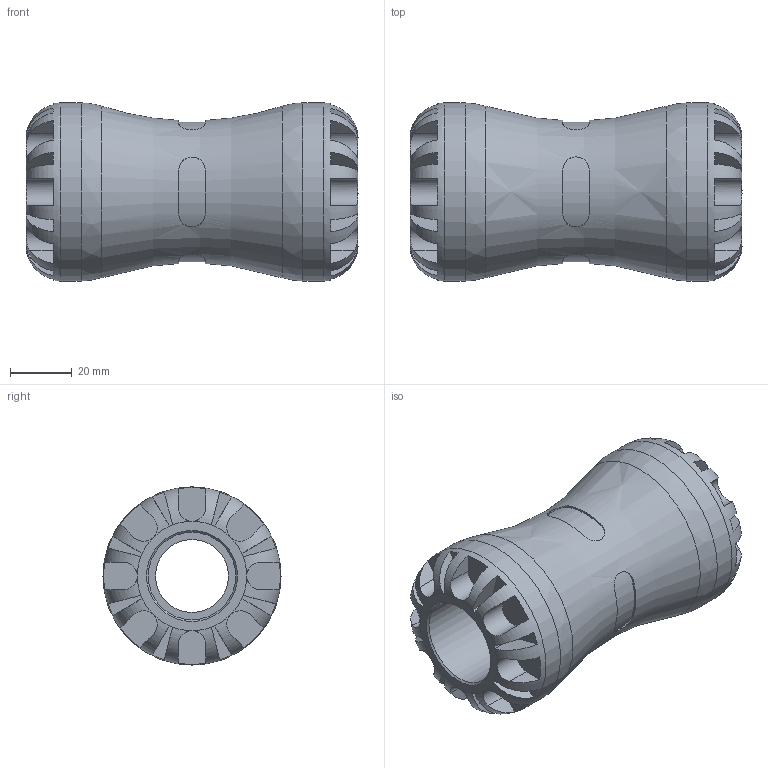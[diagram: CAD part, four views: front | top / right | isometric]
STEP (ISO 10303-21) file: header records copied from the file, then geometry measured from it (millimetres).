
FILE_DESCRIPTION(/* description */ ('PLASSON COUPLER 1''''CTS x 1''''CTS SERIES 1'),/* implementation_level */ '2;1');
FILE_NAME(/* name */ 'C:\Dropbox\KIMPROJECTS-Inventor 2019\99-16-3568-Processing Inch\ASTM S1 2021\1001Z\1001Z0010.ipt.stp',/* time_stamp */ '2021-09-02T12:00:06+03:00',/* author */ ('KIM'),/* organization */ (''),/* preprocessor_version */ 'ST-DEVELOPER v17.2',/* originating_system */ 'Autodesk Inventor 2019',/* authorisation */ '');
FILE_SCHEMA (('AUTOMOTIVE_DESIGN { 1 0 10303 214 3 1 1 }'));
Length unit declared in the file: inch
Products named in the file (1): 1001Z0010
Bounding box: 107.95 x 57.91 x 57.91 mm (x, y, z)
Volume: 152167.9 mm3; surface area: 35099.6 mm2
Topology: 1 solids, 1 shells, 164 faces, 431 edges, 274 vertices
Faces by surface type: plane 108, cylinder 49, torus 3, cone 2, bspline 2
Full cylindrical faces by diameter (mm): 23.708 x1, 28.45 x2, 57.912 x2
Entity records: 6681 total; most frequent: CARTESIAN_POINT 2502, ORIENTED_EDGE 862, DIRECTION 813, EDGE_CURVE 431, AXIS2_PLACEMENT_3D 331, VERTEX_POINT 274, EDGE_LOOP 171, CIRCLE 168
